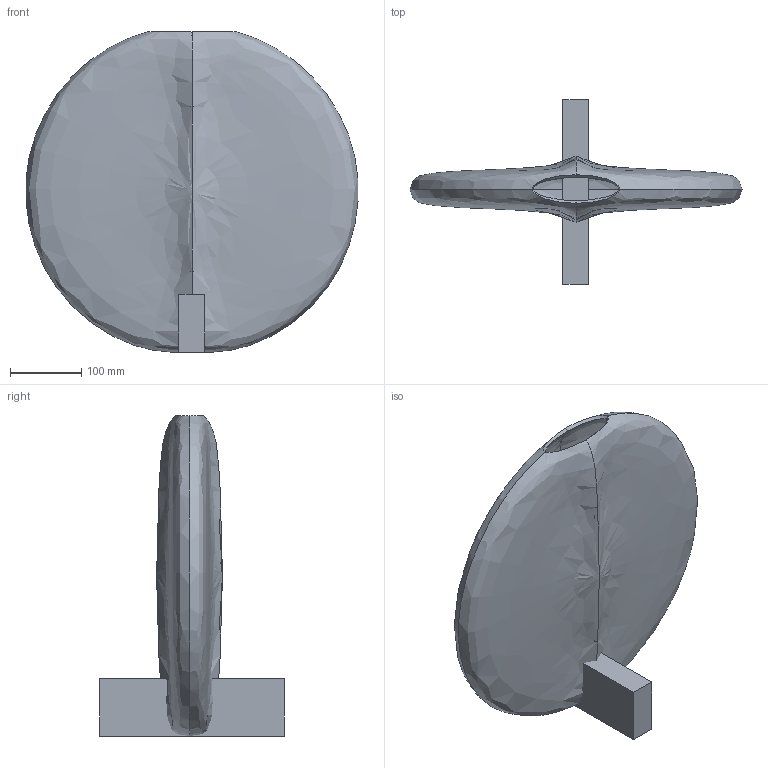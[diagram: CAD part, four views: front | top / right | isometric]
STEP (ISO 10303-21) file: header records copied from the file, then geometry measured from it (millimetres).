
FILE_DESCRIPTION(/* description */ (''),/* implementation_level */ '2;1');
FILE_NAME(/* name */ 'Guggenheim Big',/* time_stamp */ '2020-03-03T10:55:53+01:00',/* author */ (''),/* organization */ (''),/* preprocessor_version */ 'ST-DEVELOPER v15',/* originating_system */ '',/* authorisation */ '');
FILE_SCHEMA (('AUTOMOTIVE_DESIGN'));
Length unit declared in the file: millimetre
Products named in the file (1): Document
Bounding box: 465.79 x 258.94 x 449.84 mm (x, y, z)
Volume: 2597008.9 mm3; surface area: 826441 mm2
Topology: 5 solids, 5 shells, 42 faces, 100 edges, 60 vertices
Faces by surface type: bspline 36, plane 6
Entity records: 11193 total; most frequent: CARTESIAN_POINT 10548, ORIENTED_EDGE 184, EDGE_CURVE 92, B_SPLINE_CURVE_WITH_KNOTS 92, VERTEX_POINT 60, ADVANCED_FACE 42, FACE_OUTER_BOUND 42, EDGE_LOOP 42
